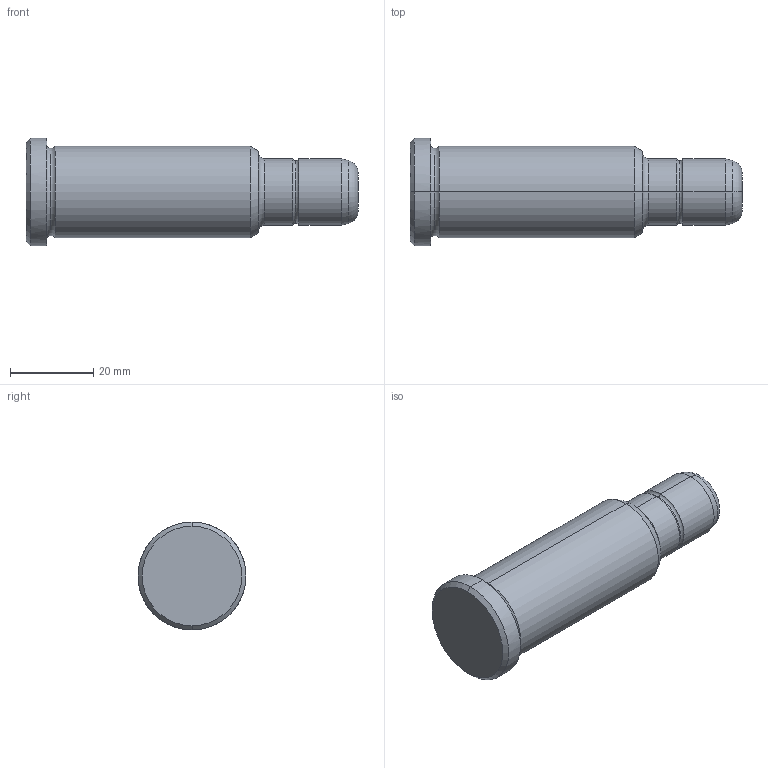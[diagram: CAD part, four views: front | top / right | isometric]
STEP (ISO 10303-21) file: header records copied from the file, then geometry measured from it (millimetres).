
FILE_DESCRIPTION(('CATIA V5 STEP Exchange'),'2;1');
FILE_NAME('C:\Users\Utente\Desktop\IO LAVORO\3D X SITO CF\X SITO\PLASTICA\351\351-16X56X80.stp','2021-08-18T12:27:01+00:00',('none'),('none'),'CATIA Version 5 Release 20 GA (IN-10)','CATIA V5 STEP AP203','none');
FILE_SCHEMA(('CONFIG_CONTROL_DESIGN'));
Length unit declared in the file: millimetre
Products named in the file (1): 351-16X56X80
Bounding box: 80 x 26 x 26 mm (x, y, z)
Volume: 26555.3 mm3; surface area: 6004.7 mm2
Topology: 1 solids, 1 shells, 30 faces, 86 edges, 60 vertices
Faces by surface type: torus 12, cylinder 8, cone 6, plane 4
Entity records: 1112 total; most frequent: CARTESIAN_POINT 289, ORIENTED_EDGE 172, DIRECTION 138, AXIS2_PLACEMENT_3D 95, EDGE_CURVE 86, CIRCLE 64, VERTEX_POINT 60, EDGE_LOOP 32
